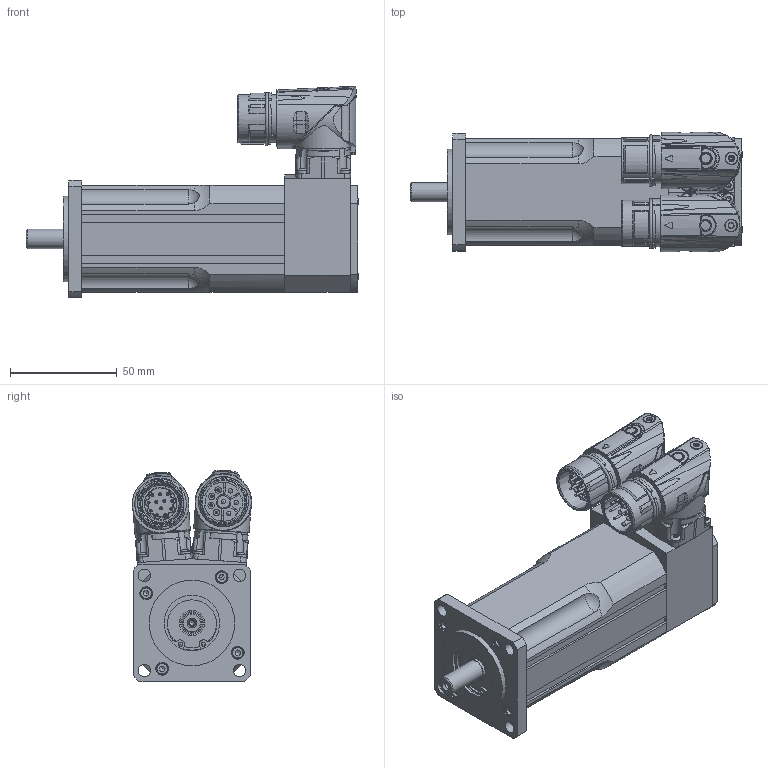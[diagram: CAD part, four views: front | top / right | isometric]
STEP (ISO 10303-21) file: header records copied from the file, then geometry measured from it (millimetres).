
FILE_DESCRIPTION(/* description */ (''),/* implementation_level */ '2;1');
FILE_NAME(/* name */ 'V:\2\N2057 00 B\3D_Z\N2057 00 B Z_0075_S4_S1_8P_12P.stp',/* time_stamp */ '2017-11-20T09:31:45+01:00',/* author */ ('simik'),/* organization */ (''),/* preprocessor_version */ 'ST-DEVELOPER v17',/* originating_system */ 'Autodesk Inventor 2018',/* authorisation */ '');
FILE_SCHEMA (('AUTOMOTIVE_DESIGN { 1 0 10303 214 3 1 1 }'));
Products named in the file (9): N2057 00 B Z_0075_S4_S1_8P_12P; N2057 00 B Z_front; N2057 00 B Z_0075_rear_; BED_0201_8-polig, Stift; Basis 2; Basis 11; AED_0201_12-polig, Stift; 124888; 127323
Assembly tree (8 placements, depth 3):
  N2057 00 B Z_0075_S4_S1_8P_12P
    N2057 00 B Z_front
    N2057 00 B Z_0075_rear_
    BED_0201_8-polig, Stift
      Basis 2
      Basis 11
    AED_0201_12-polig, Stift
      124888
      127323
Bounding box: 155.2 x 55.85 x 98.91 mm (x, y, z)
Volume: 386405.4 mm3; surface area: 62278.9 mm2
Topology: 6 solids, 10 shells, 1780 faces, 4730 edges, 3008 vertices
Faces by surface type: cylinder 796, plane 497, bspline 256, cone 112, torus 81, sphere 38
Full cylindrical faces by diameter (mm): 1 x16, 1.18 x12, 1.2 x12, 1.3 x4, 2 x6, 2.013 x2, 2.208 x8, 2.4 x8, 2.459 x1, 2.5 x8, 2.7 x4, 2.8 x4, 3 x9, 3.1 x4, 3.2 x6, 4.5 x2, 5.5 x6, 5.6 x4, 5.8 x5, 5.9 x2, 6 x4, 6.5 x4, 6.8 x1, 9 x1, 10 x3, 15.2 x1, 17.4 x1, 17.955 x1, 19.8 x2, 19.9 x1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
Entity records: 70573 total; most frequent: CARTESIAN_POINT 24681, ORIENTED_EDGE 9364, DIRECTION 9225, EDGE_CURVE 4682, AXIS2_PLACEMENT_3D 3831, VERTEX_POINT 3008, CIRCLE 2076, EDGE_LOOP 1974
